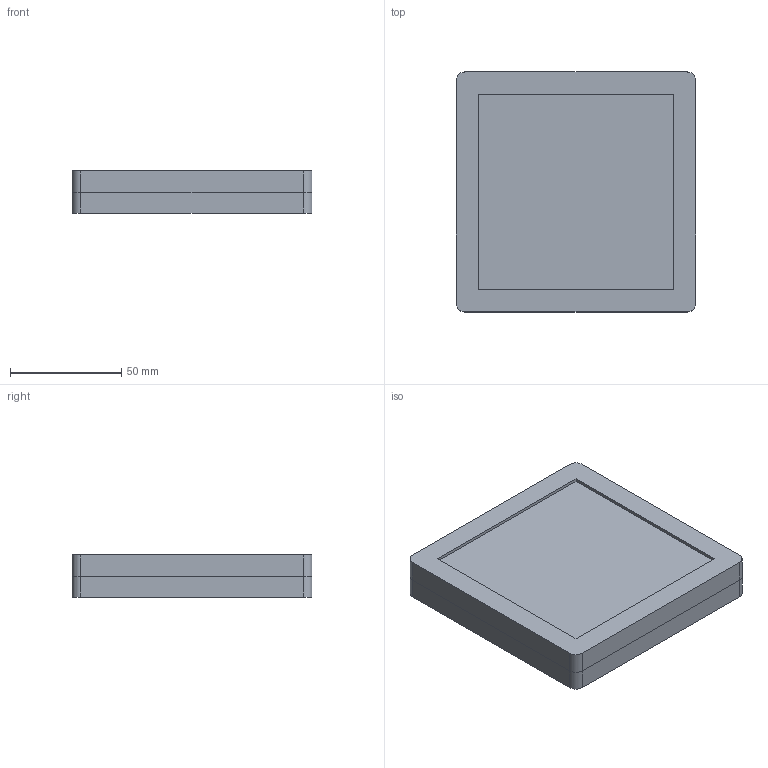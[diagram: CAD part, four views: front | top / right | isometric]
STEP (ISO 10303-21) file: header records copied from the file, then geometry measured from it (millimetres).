
FILE_DESCRIPTION(('FreeCAD Model'),'2;1');
FILE_NAME('Open CASCADE Shape Model','2026-10-10T20:57:57',(''),(''), 'Open CASCADE STEP processor 7.8','FreeCAD','Unknown');
FILE_SCHEMA(('AUTOMOTIVE_DESIGN { 1 0 10303 214 1 1 1 1 }'));
Products named in the file (4): Entropy_Box_100_V3_Base; Lid_Closed_REFERENCE; ClearPanel_100x100x2_REFERENCE; Dice_100_REFERENCE
Bounding box: 108 x 108 x 19 mm (x, y, z)
Volume: 130505 mm3; surface area: 100178.3 mm2
Topology: 103 solids, 103 shells, 2586 faces, 5964 edges, 3824 vertices
Faces by surface type: bspline 2586
Entity records: 136540 total; most frequent: CARTESIAN_POINT 56209, B_SPLINE_CURVE_WITH_KNOTS 17756, ORIENTED_EDGE 11928, PCURVE 11928, DEFINITIONAL_REPRESENTATION 11928, EDGE_CURVE 5964, SURFACE_CURVE 5964, VERTEX_POINT 3824
